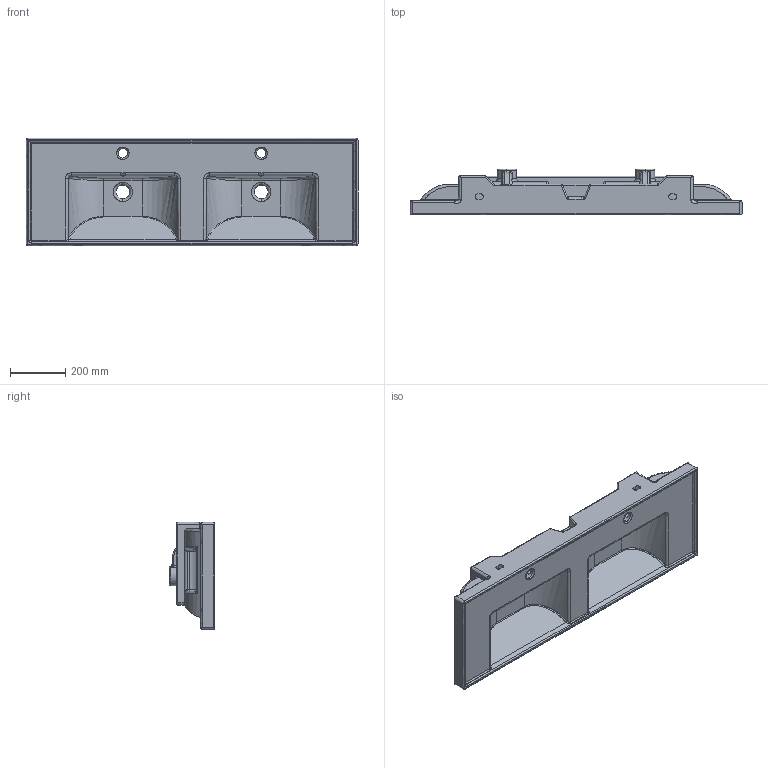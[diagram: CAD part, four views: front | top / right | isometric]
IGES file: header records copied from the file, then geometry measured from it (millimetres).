
Start section: Comment
Global section: file name: ML 120x40.igs; native system:  By UGS Corp.; preprocessor: XPlus GENERIC/IGES 3.0; author: Author; organization: Title; date: 20110720.092802; units: millimetre
Bounding box: 1200 x 165 x 390 mm (x, y, z)
Surface area: 1595865 mm2 (no closed solid volume)
Topology: 0 solids, 0 shells, 361 faces, 1790 edges, 1772 vertices
Faces by surface type: bspline 361
